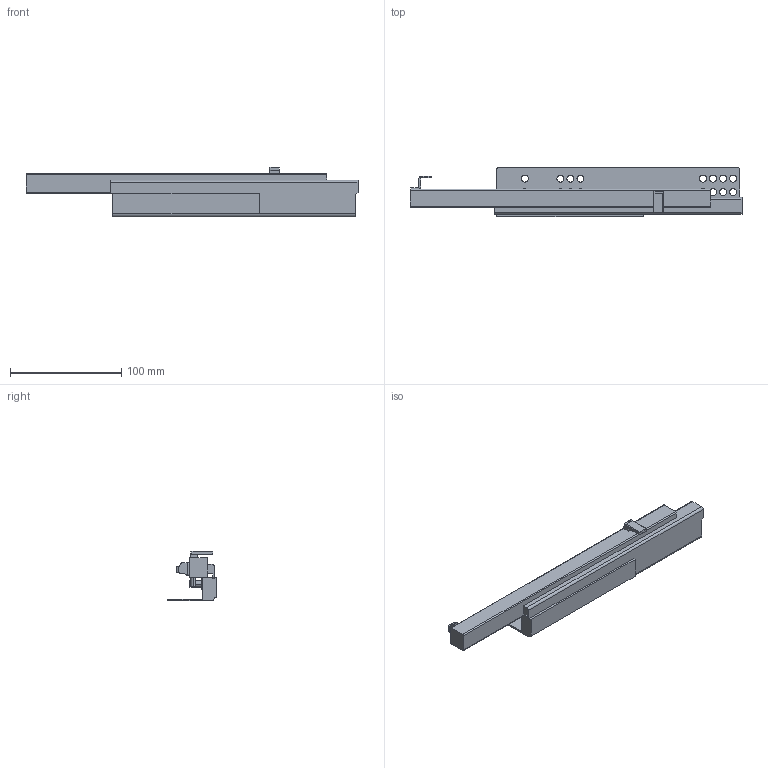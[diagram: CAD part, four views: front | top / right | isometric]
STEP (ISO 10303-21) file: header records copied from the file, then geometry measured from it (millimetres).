
FILE_DESCRIPTION (( 'STEP AP203' ), '1' );
FILE_NAME ('GG10300H-R-DTC3D-close.STEP', '2021-07-02T00:54:15', ( 'df' ), ( 'Microsoft' ), 'SwSTEP 2.0', 'SolidWorks 2018', '' );
FILE_SCHEMA (( 'CONFIG_CONTROL_DESIGN' ));
Length unit declared in the file: millimetre
Products named in the file (1): GG10300H-R-DTC3D-close
Bounding box: 298 x 44.1 x 44.73 mm (x, y, z)
Volume: 148759.6 mm3; surface area: 51561.7 mm2
Topology: 1 solids, 1 shells, 166 faces, 465 edges, 301 vertices
Faces by surface type: cylinder 80, plane 78, bspline 4, sphere 2, cone 2
Entity records: 5559 total; most frequent: CARTESIAN_POINT 1108, ORIENTED_EDGE 926, DIRECTION 909, EDGE_CURVE 463, AXIS2_PLACEMENT_3D 313, VERTEX_POINT 301, LINE 283, VECTOR 283
